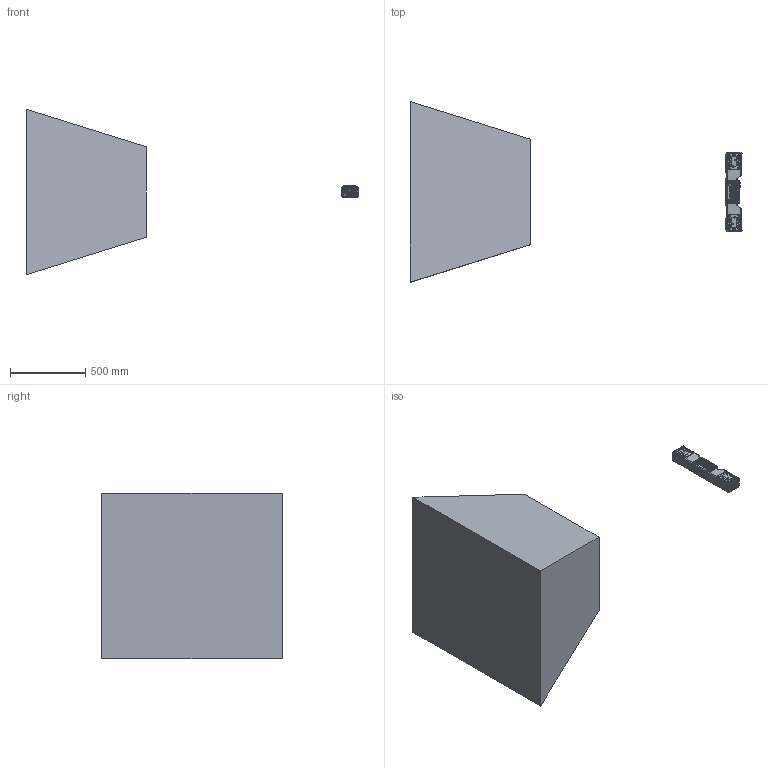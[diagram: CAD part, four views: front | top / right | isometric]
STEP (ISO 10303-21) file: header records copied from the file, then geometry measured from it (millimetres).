
FILE_DESCRIPTION((''),'2;1');
FILE_NAME('MV-DLS700U-13_ASM','2025-04-22T20:24:53',('guodanfeng'),(''),'CREO PARAMETRIC BY PTC INC, 2020044','CREO PARAMETRIC BY PTC INC, 2020044','');
FILE_SCHEMA(('AUTOMOTIVE_DESIGN { 1 0 10303 214 1 1 1 1 }'));
Products named in the file (20): DE-16-000622-1; DE-13-001992_ASM; L102-M12-Z12A23C; L102-M12-Z08A11F; MV-23429_ASM; SC-HSCSM4X10NL-SUS; DE-19-009310; DE-14-060441; DE-14-060441-ASM_ASM; DE-14-060461; DF-14-000009; DE-14-060462; DE-18-000263; DE-17-003785; DE-14-064679; DE-18-000273; DE-18-000274; DE-13-002747; DE-13-002748_ASM; MV-DLS700U-13_ASM
Assembly tree (37 placements, depth 3):
  MV-DLS700U-13_ASM
    DE-16-000622-1
    DE-13-001992_ASM
    MV-23429_ASM
      L102-M12-Z12A23C
      L102-M12-Z08A11F
    SC-HSCSM4X10NL-SUS  x6
    DE-19-009310
    DE-14-060441-ASM_ASM  x2
      DE-14-060441
    DE-14-060461
    DF-14-000009  x12
    DE-14-060462
    DE-18-000263
    DE-17-003785  x2
    DE-14-064679
    DE-18-000273
    DE-18-000274
    DE-13-002748_ASM
      DE-13-002747
Bounding box: 2207.4 x 1200 x 1100 mm (x, y, z)
Volume: 3629119.7 mm3; surface area: 5205848.9 mm2
Topology: 58 solids, 127 shells, 4282 faces, 11301 edges, 7382 vertices
Faces by surface type: plane 2017, cylinder 1623, cone 306, bspline 209, torus 72, sphere 44, extrusion 11
Entity records: 129852 total; most frequent: CARTESIAN_POINT 37628, ORIENTED_EDGE 17370, DIRECTION 17050, EDGE_CURVE 8716, AXIS2_PLACEMENT_3D 6158, VERTEX_POINT 5775, VECTOR 4734, LINE 4723
